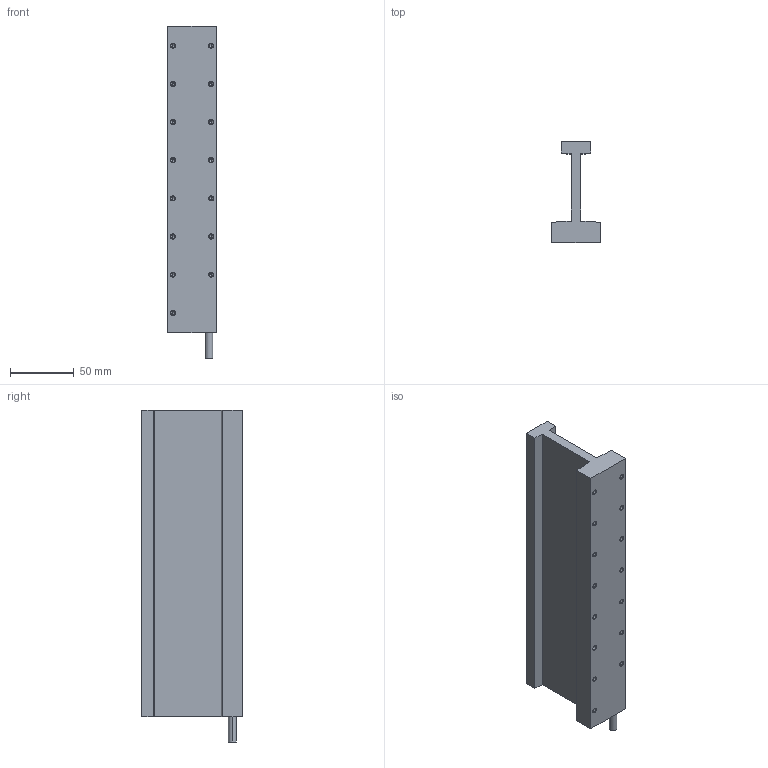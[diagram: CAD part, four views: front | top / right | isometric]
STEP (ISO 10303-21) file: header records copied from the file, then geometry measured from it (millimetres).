
FILE_DESCRIPTION (( 'STEP AP214' ), '1' );
FILE_NAME ('JKB44.STEP', '2025-09-05T12:49:30', ( '' ), ( '' ), 'SwSTEP 2.0', 'SolidWorks 2016', '' );
FILE_SCHEMA (( 'AUTOMOTIVE_DESIGN' ));
Length unit declared in the file: millimetre
Products named in the file (1): JKB44
Bounding box: 38.5 x 79.3 x 261 mm (x, y, z)
Volume: 299317.5 mm3; surface area: 68182.4 mm2
Topology: 1 solids, 1 shells, 107 faces, 252 edges, 133 vertices
Faces by surface type: cone 60, cylinder 32, plane 15
Entity records: 3174 total; most frequent: DIRECTION 532, CARTESIAN_POINT 463, ORIENTED_EDGE 444, EDGE_CURVE 222, AXIS2_PLACEMENT_3D 202, VERTEX_POINT 133, LINE 128, VECTOR 128
